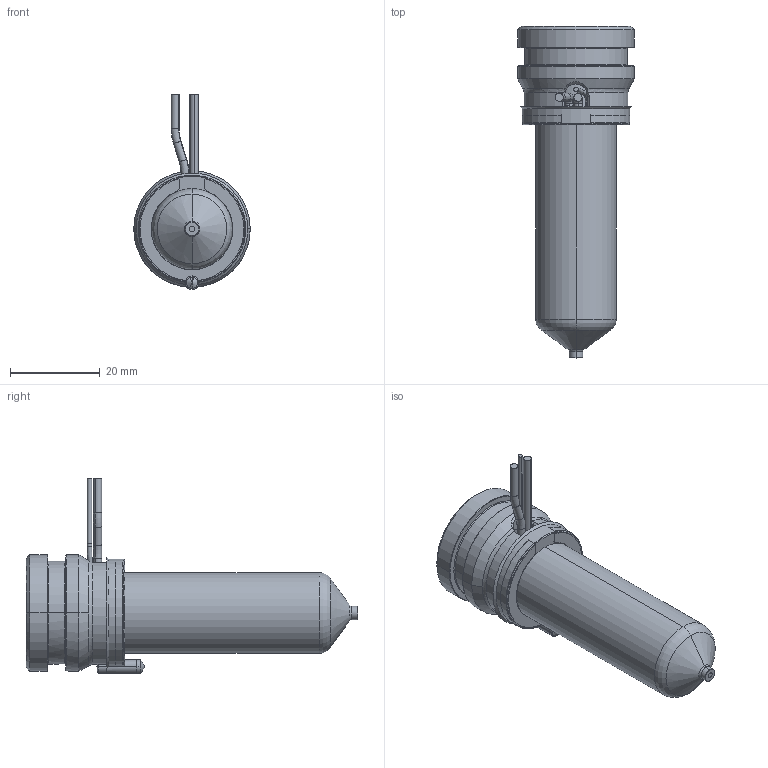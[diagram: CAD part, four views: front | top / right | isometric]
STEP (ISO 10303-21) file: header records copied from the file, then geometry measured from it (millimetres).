
FILE_DESCRIPTION((''),'2;1');
FILE_NAME('MPN-08-24-VP3-056-A','2026-02-05T12:01:13',('UPTIO'),('Thermoplay S.p.A.'),'CREO PARAMETRIC BY PTC INC, 2023494','CREO PARAMETRIC BY PTC INC, 2023494','');
FILE_SCHEMA(('CONFIG_CONTROL_DESIGN','SHAPE_APPEARANCE_LAYERS_GROUPS'));
Length unit declared in the file: millimetre
Products named in the file (1): MPN-08-24-VP3-056-A
Bounding box: 26 x 74.1 x 43.5 mm (x, y, z)
Volume: 15897.7 mm3; surface area: 19129.6 mm2
Topology: 2 solids, 3 shells, 587 faces, 1560 edges, 971 vertices
Faces by surface type: cylinder 184, plane 143, bspline 108, torus 70, cone 68, sphere 8, extrusion 6
Entity records: 32481 total; most frequent: CARTESIAN_POINT 15247, ORIENTED_EDGE 3104, DIRECTION 2714, EDGE_CURVE 1552, AXIS2_PLACEMENT_3D 1061, VERTEX_POINT 971, EDGE_LOOP 615, VECTOR 592
